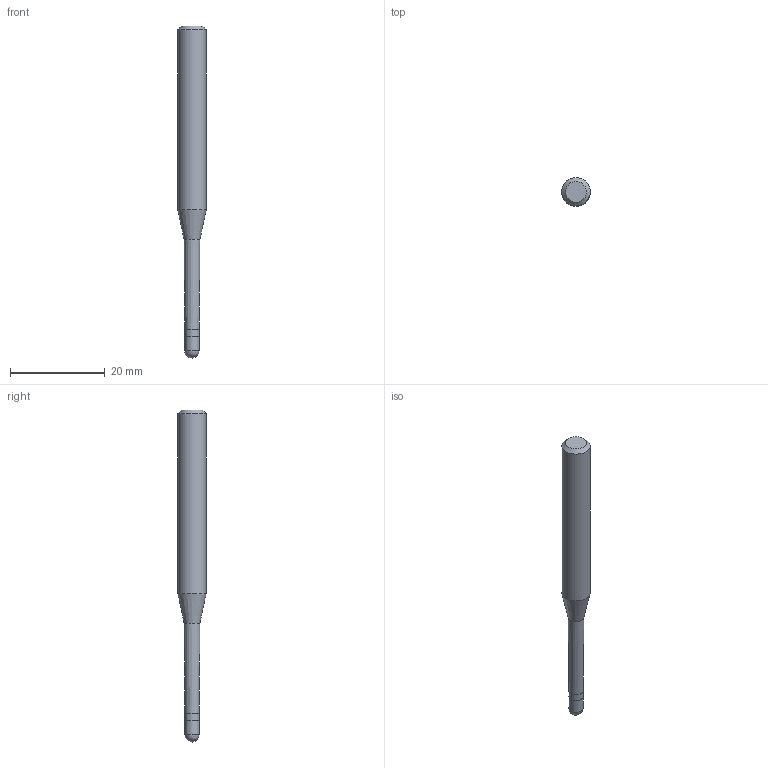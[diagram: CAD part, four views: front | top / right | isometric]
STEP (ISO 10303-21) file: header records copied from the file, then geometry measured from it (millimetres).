
FILE_DESCRIPTION((''),'2;1');
FILE_NAME('C:\Users\nsx150\AppData\Local\Temp\Mastercam 2021\E0ENTZRV18\TEMP.step','2021-09-02T09:57:12',(''),(''),'STEP Write','Mastercam 2021 ... CNC Software, Inc.','');
FILE_SCHEMA(('AUTOMOTIVE_DESIGN'));
Length unit declared in the file: millimetre
Products named in the file (1): None
Bounding box: 6 x 6 x 70 mm (x, y, z)
Volume: 1387 mm3; surface area: 1101.4 mm2
Topology: 2 solids, 2 shells, 10 faces, 16 edges, 9 vertices
Faces by surface type: plane 3, cylinder 3, cone 3, sphere 1
Full cylindrical faces by diameter (mm): 2.98 x1, 3 x1, 6 x1
Entity records: 232 total; most frequent: DIRECTION 40, CARTESIAN_POINT 28, AXIS2_PLACEMENT_3D 20, ORIENTED_EDGE 16, EDGE_LOOP 16, STYLED_ITEM 13, ADVANCED_FACE 10, FACE_BOUND 9
